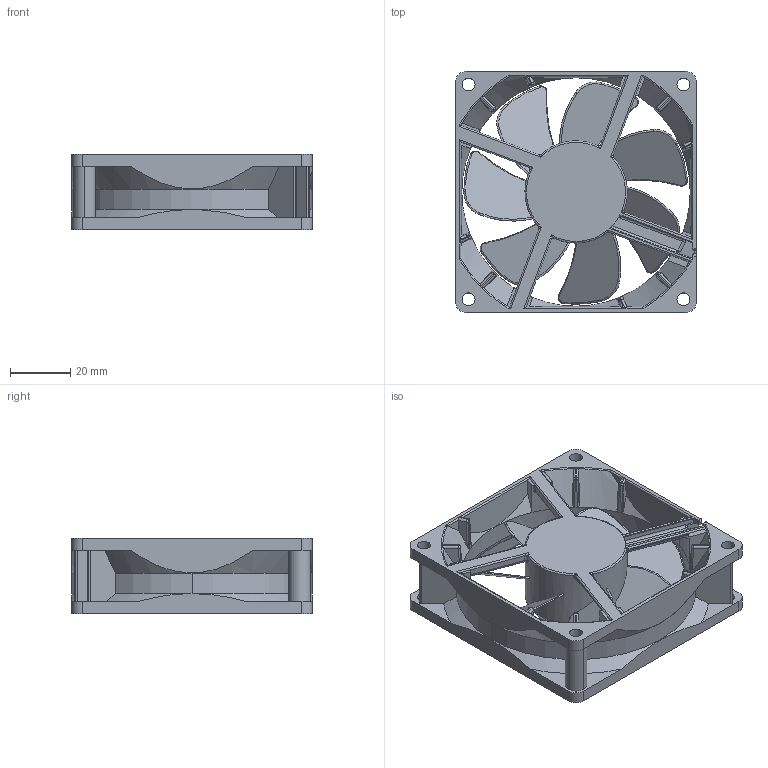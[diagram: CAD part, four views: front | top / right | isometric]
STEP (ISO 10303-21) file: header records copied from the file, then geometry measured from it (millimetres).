
FILE_DESCRIPTION (( 'STEP AP203' ), '1' );
FILE_NAME ('80X25S_RIBBED_修正.STEP', '2022-08-18T02:09:43', ( '' ), ( '' ), 'SwSTEP 2.0', 'SolidWorks 2019', '' );
FILE_SCHEMA (( 'CONFIG_CONTROL_DESIGN' ));
Length unit declared in the file: millimetre
Products named in the file (1): 80X25S_RIBBED_修正
Bounding box: 80.2 x 80.2 x 25.2 mm (x, y, z)
Volume: 36869.6 mm3; surface area: 37925.1 mm2
Topology: 1 solids, 2 shells, 840 faces, 2176 edges, 1336 vertices
Faces by surface type: cylinder 329, bspline 219, plane 186, cone 47, torus 43, sphere 16
Entity records: 31725 total; most frequent: CARTESIAN_POINT 12834, ORIENTED_EDGE 4328, DIRECTION 3580, EDGE_CURVE 2164, AXIS2_PLACEMENT_3D 1442, VERTEX_POINT 1336, EDGE_LOOP 876, ADVANCED_FACE 840
